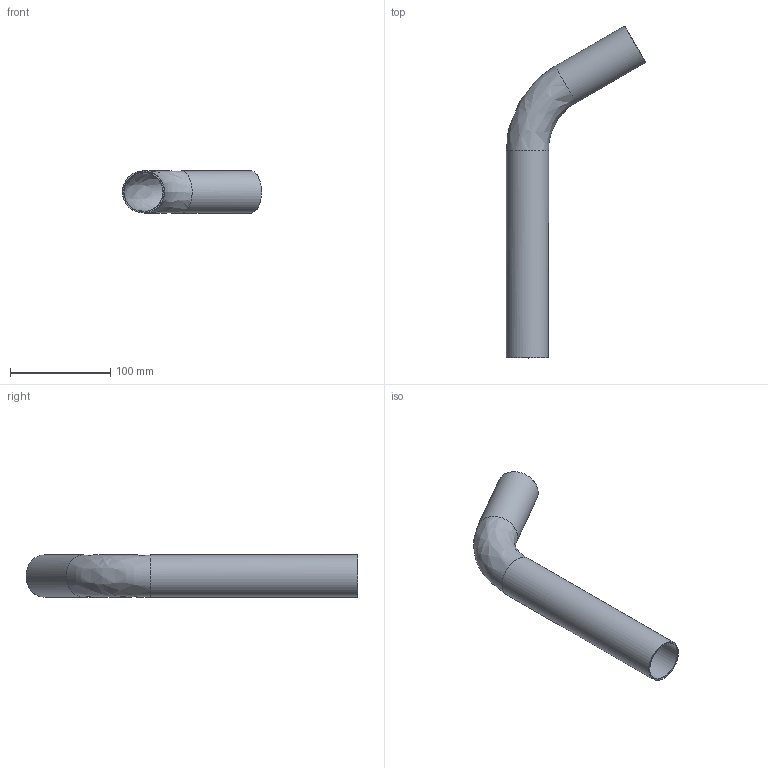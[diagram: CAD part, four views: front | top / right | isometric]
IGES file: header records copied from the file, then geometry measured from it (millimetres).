
Global section: file name: C72AH; native system: Autodesk Inventor 2023; preprocessor: unknown; author: lvalentini; date: 20230921.121017; units: millimetre
Bounding box: 138.81 x 331.09 x 42 mm (x, y, z)
Volume: 70414.8 mm3; surface area: 93803.5 mm2
Topology: 1 solids, 1 shells, 12 faces, 26 edges, 16 vertices
Faces by surface type: bspline 12
